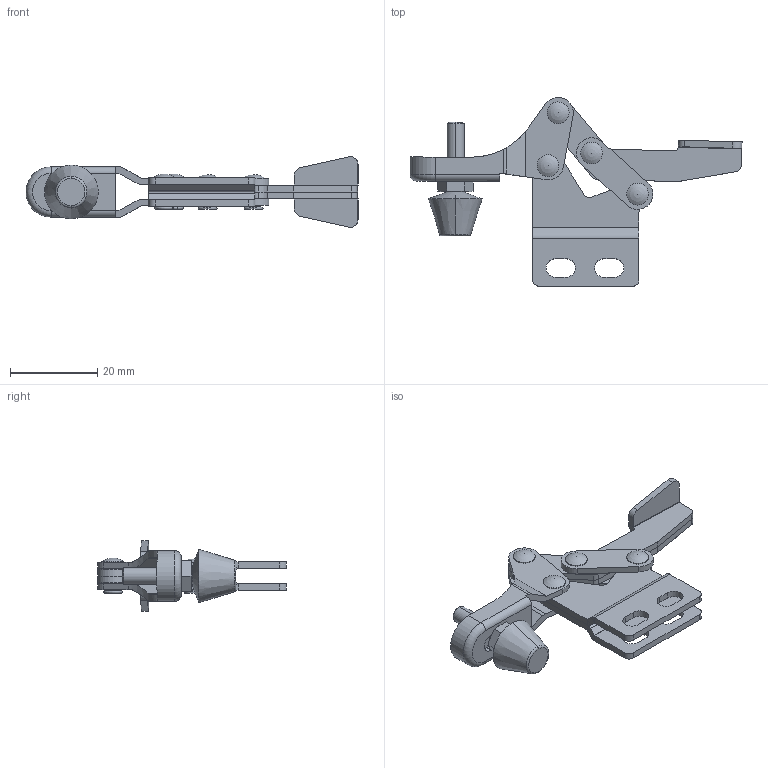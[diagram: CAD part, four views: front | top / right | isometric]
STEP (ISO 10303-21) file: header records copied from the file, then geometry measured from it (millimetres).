
FILE_DESCRIPTION (( 'STEP AP214' ), '1' );
FILE_NAME ('ISK-08S0.STEP', '2015-07-07T01:15:52', ( '' ), ( '' ), 'SwSTEP 2.0', 'SolidWorks 2015', '' );
FILE_SCHEMA (( 'AUTOMOTIVE_DESIGN' ));
Length unit declared in the file: millimetre
Products named in the file (9): ISK-08S0; Rubber bolt_M4×16; hexagon nut_3_jis_JIS B 1181 Hexagon nut - Class 3 Finished M4 --N; SquareNut M4; Revet_兂3亊6; Link; Handle; Arm; Base
Assembly tree (12 placements, depth 2):
  ISK-08S0
    Base
    Arm
    Handle
    Link  x2
    Revet_兂3亊6  x4
    SquareNut M4
    hexagon nut_3_jis_JIS B 1181 Hexagon nut - Class 3 Finished M4 --N
    Rubber bolt_M4×16
Bounding box: 75.93 x 43.19 x 16.13 mm (x, y, z)
Volume: 5840.1 mm3; surface area: 8914.5 mm2
Topology: 14 solids, 14 shells, 316 faces, 766 edges, 482 vertices
Faces by surface type: plane 138, cylinder 132, cone 22, torus 20, sphere 4
Entity records: 8508 total; most frequent: CARTESIAN_POINT 1535, DIRECTION 1433, ORIENTED_EDGE 1322, EDGE_CURVE 661, AXIS2_PLACEMENT_3D 534, VERTEX_POINT 414, VECTOR 365, LINE 365
